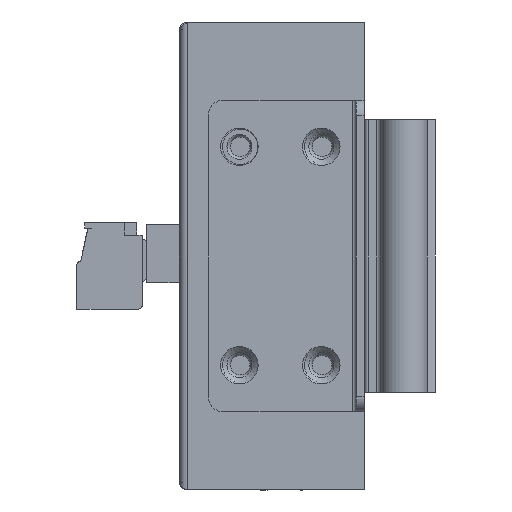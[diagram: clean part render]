
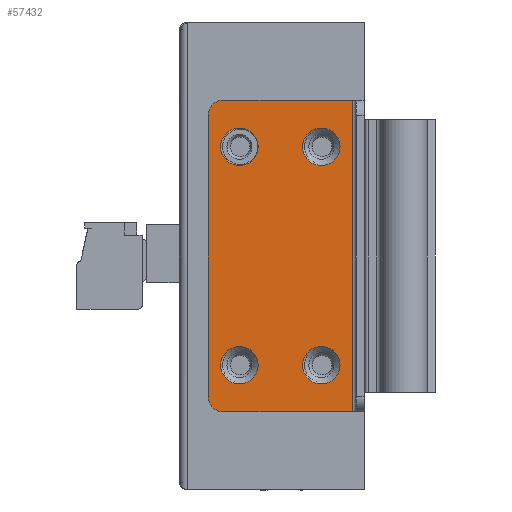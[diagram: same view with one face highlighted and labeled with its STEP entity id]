
A CAD part, left-side view. The second image highlights one B-rep face of the part: STEP entity #57432.
In plain terms, the highlighted planar face has unit normal (-1, 0, 0) as drawn and (1, 0, 0) by its records, which use the part's own axes.
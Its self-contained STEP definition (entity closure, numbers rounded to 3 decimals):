
#335=FACE_BOUND('',#16111,.T.);
#336=FACE_BOUND('',#16112,.T.);
#337=FACE_BOUND('',#16113,.T.);
#338=FACE_BOUND('',#16114,.T.);
#608=PLANE('',#61007);
#3827=LINE('',#89152,#8328);
#3828=LINE('',#89155,#8329);
#3829=LINE('',#89159,#8330);
#3830=LINE('',#89162,#8331);
#8328=VECTOR('',#68930,1000.);
#8329=VECTOR('',#68933,1000.);
#8330=VECTOR('',#68936,1000.);
#8331=VECTOR('',#68939,1000.);
#12806=FACE_OUTER_BOUND('',#16110,.T.);
#16110=EDGE_LOOP('',(#39618,#39619,#39620,#39621,#39622,#39623));
#16111=EDGE_LOOP('',(#39624));
#16112=EDGE_LOOP('',(#39625));
#16113=EDGE_LOOP('',(#39626));
#16114=EDGE_LOOP('',(#39627));
#19873=CIRCLE('',#60973,2.4);
#19875=CIRCLE('',#60976,2.4);
#19877=CIRCLE('',#60979,2.4);
#19879=CIRCLE('',#60982,2.4);
#19894=CIRCLE('',#61008,2.);
#19895=CIRCLE('',#61009,2.);
#24233=VERTEX_POINT('',#89070);
#24235=VERTEX_POINT('',#89076);
#24237=VERTEX_POINT('',#89082);
#24239=VERTEX_POINT('',#89088);
#24255=VERTEX_POINT('',#89138);
#24261=VERTEX_POINT('',#89150);
#24262=VERTEX_POINT('',#89154);
#24263=VERTEX_POINT('',#89156);
#24264=VERTEX_POINT('',#89158);
#24265=VERTEX_POINT('',#89160);
#30258=EDGE_CURVE('',#24233,#24233,#19873,.T.);
#30261=EDGE_CURVE('',#24235,#24235,#19875,.T.);
#30264=EDGE_CURVE('',#24237,#24237,#19877,.T.);
#30267=EDGE_CURVE('',#24239,#24239,#19879,.T.);
#30297=EDGE_CURVE('',#24255,#24261,#3827,.T.);
#30298=EDGE_CURVE('',#24262,#24255,#3828,.T.);
#30299=EDGE_CURVE('',#24261,#24263,#19894,.T.);
#30300=EDGE_CURVE('',#24263,#24264,#3829,.T.);
#30301=EDGE_CURVE('',#24264,#24265,#19895,.T.);
#30302=EDGE_CURVE('',#24265,#24262,#3830,.T.);
#39618=ORIENTED_EDGE('',*,*,#30298,.T.);
#39619=ORIENTED_EDGE('',*,*,#30297,.T.);
#39620=ORIENTED_EDGE('',*,*,#30299,.T.);
#39621=ORIENTED_EDGE('',*,*,#30300,.T.);
#39622=ORIENTED_EDGE('',*,*,#30301,.T.);
#39623=ORIENTED_EDGE('',*,*,#30302,.T.);
#39624=ORIENTED_EDGE('',*,*,#30258,.T.);
#39625=ORIENTED_EDGE('',*,*,#30261,.T.);
#39626=ORIENTED_EDGE('',*,*,#30264,.T.);
#39627=ORIENTED_EDGE('',*,*,#30267,.T.);
#57432=ADVANCED_FACE('',(#12806,#335,#336,#337,#338),#608,.T.);
#60973=AXIS2_PLACEMENT_3D('',#89072,#68844,#68845);
#60976=AXIS2_PLACEMENT_3D('',#89078,#68851,#68852);
#60979=AXIS2_PLACEMENT_3D('',#89084,#68858,#68859);
#60982=AXIS2_PLACEMENT_3D('',#89090,#68865,#68866);
#61007=AXIS2_PLACEMENT_3D('',#89153,#68931,#68932);
#61008=AXIS2_PLACEMENT_3D('',#89157,#68934,#68935);
#61009=AXIS2_PLACEMENT_3D('',#89161,#68937,#68938);
#68844=DIRECTION('center_axis',(-1.,0.,0.));
#68845=DIRECTION('ref_axis',(0.,0.,
1.));
#68851=DIRECTION('center_axis',(-1.,0.,0.));
#68852=DIRECTION('ref_axis',(0.,0.,
1.));
#68858=DIRECTION('center_axis',(-1.,0.,0.));
#68859=DIRECTION('ref_axis',(0.,0.,
1.));
#68865=DIRECTION('center_axis',(-1.,0.,0.));
#68866=DIRECTION('ref_axis',(0.,0.,
1.));
#68930=DIRECTION('',(0.,1.,0.));
#68931=DIRECTION('center_axis',(1.,0.,0.));
#68932=DIRECTION('ref_axis',(0.,1.,0.));
#68933=DIRECTION('',(0.,0.,-1.));
#68934=DIRECTION('center_axis',(1.,0.,0.));
#68935=DIRECTION('ref_axis',(0.,0.,
1.));
#68936=DIRECTION('',(0.,0.,1.));
#68937=DIRECTION('center_axis',(1.,0.,0.));
#68938=DIRECTION('ref_axis',(0.,0.,
-1.));
#68939=DIRECTION('',(0.,-1.,0.));
#89070=CARTESIAN_POINT('',(88.149,6.1,11.6));
#89072=CARTESIAN_POINT('Origin',(88.149,6.1,14.));
#89076=CARTESIAN_POINT('',(88.149,16.6,11.6));
#89078=CARTESIAN_POINT('Origin',(88.149,16.6,14.));
#89082=CARTESIAN_POINT('',(88.149,16.6,-16.4));
#89084=CARTESIAN_POINT('Origin',(88.149,16.6,-14.));
#89088=CARTESIAN_POINT('',(88.149,6.1,-16.4));
#89090=CARTESIAN_POINT('Origin',(88.149,6.1,-14.));
#89138=CARTESIAN_POINT('',(88.149,2.1,-20.));
#89150=CARTESIAN_POINT('',(88.149,18.6,-20.));
#89152=CARTESIAN_POINT('',(88.149,9.6,-20.));
#89153=CARTESIAN_POINT('Origin',(88.149,1.73,-20.8));
#89154=CARTESIAN_POINT('',(88.149,2.1,20.));
#89155=CARTESIAN_POINT('',(88.149,2.1,0.));
#89156=CARTESIAN_POINT('',(88.149,20.6,-18.));
#89157=CARTESIAN_POINT('Origin',(88.149,18.6,-18.));
#89158=CARTESIAN_POINT('',(88.149,20.6,18.));
#89159=CARTESIAN_POINT('',(88.149,20.6,0.));
#89160=CARTESIAN_POINT('',(88.149,18.6,20.));
#89161=CARTESIAN_POINT('Origin',(88.149,18.6,18.));
#89162=CARTESIAN_POINT('',(88.149,11.35,20.));
